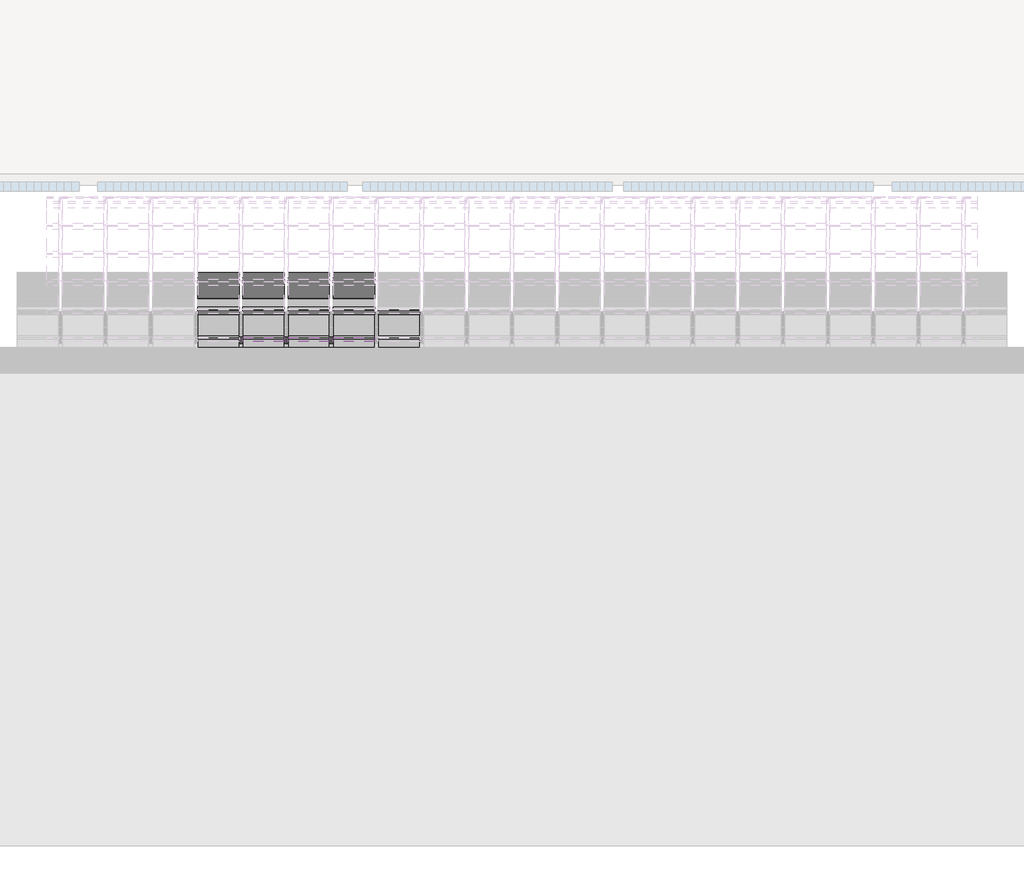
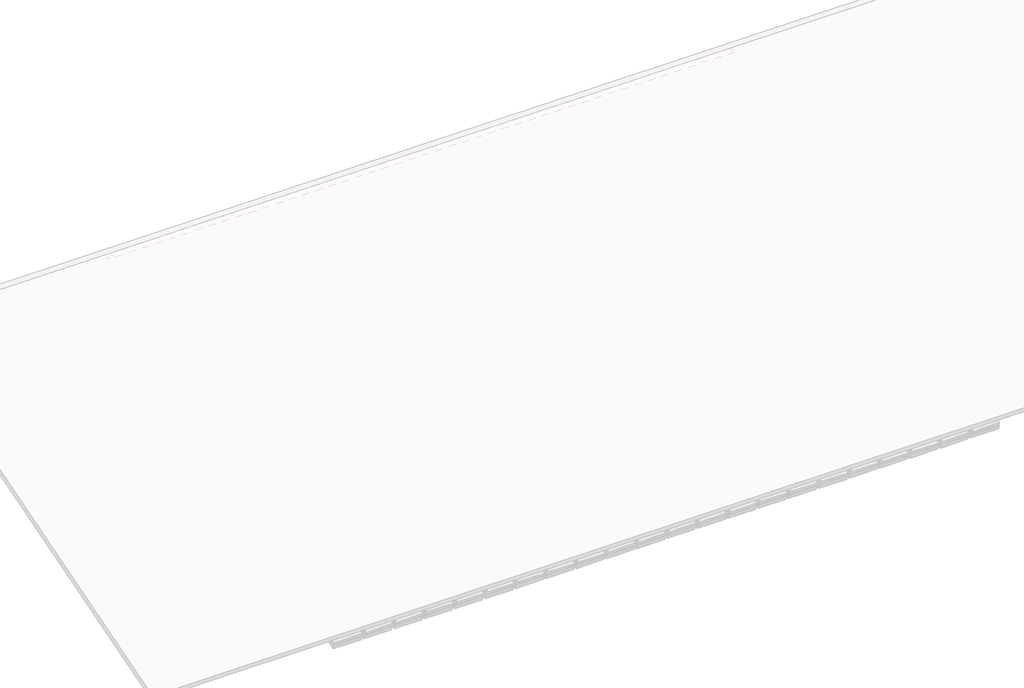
# One storey, part 19 of 57: 80 members, 44 plates.
"""IFC4 building model written with IfcOpenShell, lengths in millimetres."""

from ifc_helpers import new_model, si_unit, origin, place, context, project, spatial, transform, mapped, element, save
from components import rectangular_mullion_59984080, rectangular_mullion_2d2423ea, rectangular_mullion_caibro_e4384bba, rectangular_mullion_caibro_9bd7bc61, empty_system_panel_vazio_178faf58, empty_system_panel_vazio_2c78850d

model = new_model("IFC4")

# Units and contexts
model_context = context("Model", 3, world=origin())
ifc_project = project(units=[si_unit("LENGTHUNIT", "METRE", prefix="MILLI")], contexts=[model_context])

# Site, building, storey
site = spatial("IfcSite", under=ifc_project)
building = spatial("IfcBuilding", under=site)
storey = spatial("IfcBuildingStorey", under=building, Name="Nível 2", Elevation=4100.0)

# Members
placement = place(None, origin())
rectangular_mullion_shape = rectangular_mullion_59984080(model_context)
element("IfcMember", 1, ObjectType="Rectangular Mullion : Ripa", at=placement, inside=storey, context=model_context, shape_type="MappedRepresentation", body=[
    mapped(rectangular_mullion_shape, transform((14314.8305371, 11124.0013387, 4487.2495802), x_axis=(0.0, 0.9578262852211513, 0.2873478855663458), y_axis=(0.0, 0.2873478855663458, -0.9578262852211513), z_axis=(-1.0, 0.0, 0.0))),
])
element("IfcMember", 2, ObjectType="Rectangular Mullion : Ripa", at=placement, inside=storey, context=model_context, shape_type="MappedRepresentation", body=[
    mapped(rectangular_mullion_shape, transform((14911.8852935, 11124.0013387, 4487.2495802), x_axis=(0.0, 0.9578262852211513, 0.2873478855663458), y_axis=(0.0, 0.2873478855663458, -0.9578262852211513), z_axis=(-1.0, 0.0, 0.0))),
])
element("IfcMember", 3, ObjectType="Rectangular Mullion : Ripa", at=placement, inside=storey, context=model_context, shape_type="MappedRepresentation", body=[
    mapped(rectangular_mullion_shape, transform((15508.9400499, 11124.0013387, 4487.2495802), x_axis=(0.0, 0.9578262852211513, 0.2873478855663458), y_axis=(0.0, 0.2873478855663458, -0.9578262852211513), z_axis=(-1.0, 0.0, 0.0))),
])
element("IfcMember", 4, ObjectType="Rectangular Mullion : Ripa", at=placement, inside=storey, context=model_context, shape_type="MappedRepresentation", body=[
    mapped(rectangular_mullion_shape, transform((14314.8305371, 11494.1785974, 4598.3027578), x_axis=(0.0, 0.9578262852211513, 0.2873478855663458), y_axis=(0.0, 0.2873478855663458, -0.9578262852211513), z_axis=(-1.0, 0.0, 0.0))),
])
element("IfcMember", 5, ObjectType="Rectangular Mullion : Ripa", at=placement, inside=storey, context=model_context, shape_type="MappedRepresentation", body=[
    mapped(rectangular_mullion_shape, transform((14911.8852935, 11494.1785974, 4598.3027578), x_axis=(0.0, 0.9578262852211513, 0.2873478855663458), y_axis=(0.0, 0.2873478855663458, -0.9578262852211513), z_axis=(-1.0, 0.0, 0.0))),
])
element("IfcMember", 6, ObjectType="Rectangular Mullion : Ripa", at=placement, inside=storey, context=model_context, shape_type="MappedRepresentation", body=[
    mapped(rectangular_mullion_shape, transform((15508.9400499, 11494.1785974, 4598.3027578), x_axis=(0.0, 0.9578262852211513, 0.2873478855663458), y_axis=(0.0, 0.2873478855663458, -0.9578262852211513), z_axis=(-1.0, 0.0, 0.0))),
])
element("IfcMember", 7, ObjectType="Rectangular Mullion : Ripa", at=placement, inside=storey, context=model_context, shape_type="MappedRepresentation", body=[
    mapped(rectangular_mullion_shape, transform((14314.8305371, 11864.3558561, 4709.3559354), x_axis=(0.0, 0.9578262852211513, 0.2873478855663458), y_axis=(0.0, 0.2873478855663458, -0.9578262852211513), z_axis=(-1.0, 0.0, 0.0))),
])
element("IfcMember", 8, ObjectType="Rectangular Mullion : Ripa", at=placement, inside=storey, context=model_context, shape_type="MappedRepresentation", body=[
    mapped(rectangular_mullion_shape, transform((14911.8852935, 11864.3558561, 4709.3559354), x_axis=(0.0, 0.9578262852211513, 0.2873478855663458), y_axis=(0.0, 0.2873478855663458, -0.9578262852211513), z_axis=(-1.0, 0.0, 0.0))),
])
element("IfcMember", 9, ObjectType="Rectangular Mullion : Ripa", at=placement, inside=storey, context=model_context, shape_type="MappedRepresentation", body=[
    mapped(rectangular_mullion_shape, transform((15508.9400499, 11864.3558561, 4709.3559354), x_axis=(0.0, 0.9578262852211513, 0.2873478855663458), y_axis=(0.0, 0.2873478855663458, -0.9578262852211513), z_axis=(-1.0, 0.0, 0.0))),
])
element("IfcMember", 10, ObjectType="Rectangular Mullion : Ripa", at=placement, inside=storey, context=model_context, shape_type="MappedRepresentation", body=[
    mapped(rectangular_mullion_shape, transform((8344.2829728, 12234.5331147, 4820.409113), x_axis=(0.0, 0.9578262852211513, 0.2873478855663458), y_axis=(0.0, 0.2873478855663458, -0.9578262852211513), z_axis=(-1.0, 0.0, 0.0))),
])
element("IfcMember", 11, ObjectType="Rectangular Mullion : Ripa", at=placement, inside=storey, context=model_context, shape_type="MappedRepresentation", body=[
    mapped(rectangular_mullion_shape, transform((8941.3377293, 12234.5331147, 4820.409113), x_axis=(0.0, 0.9578262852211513, 0.2873478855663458), y_axis=(0.0, 0.2873478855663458, -0.9578262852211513), z_axis=(-1.0, 0.0, 0.0))),
])
element("IfcMember", 12, ObjectType="Rectangular Mullion : Ripa", at=placement, inside=storey, context=model_context, shape_type="MappedRepresentation", body=[
    mapped(rectangular_mullion_shape, transform((9538.3924857, 12234.5331147, 4820.409113), x_axis=(0.0, 0.9578262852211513, 0.2873478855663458), y_axis=(0.0, 0.2873478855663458, -0.9578262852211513), z_axis=(-1.0, 0.0, 0.0))),
])
element("IfcMember", 13, ObjectType="Rectangular Mullion : Ripa", at=placement, inside=storey, context=model_context, shape_type="MappedRepresentation", body=[
    mapped(rectangular_mullion_shape, transform((10135.4472421, 12234.5331147, 4820.409113), x_axis=(0.0, 0.9578262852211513, 0.2873478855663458), y_axis=(0.0, 0.2873478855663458, -0.9578262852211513), z_axis=(-1.0, 0.0, 0.0))),
])
element("IfcMember", 14, ObjectType="Rectangular Mullion : Ripa", at=placement, inside=storey, context=model_context, shape_type="MappedRepresentation", body=[
    mapped(rectangular_mullion_shape, transform((10732.5019985, 12234.5331147, 4820.409113), x_axis=(0.0, 0.9578262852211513, 0.2873478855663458), y_axis=(0.0, 0.2873478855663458, -0.9578262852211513), z_axis=(-1.0, 0.0, 0.0))),
])
element("IfcMember", 15, ObjectType="Rectangular Mullion : Ripa", at=placement, inside=storey, context=model_context, shape_type="MappedRepresentation", body=[
    mapped(rectangular_mullion_shape, transform((11329.556755, 12234.5331147, 4820.409113), x_axis=(0.0, 0.9578262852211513, 0.2873478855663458), y_axis=(0.0, 0.2873478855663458, -0.9578262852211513), z_axis=(-1.0, 0.0, 0.0))),
])
element("IfcMember", 16, ObjectType="Rectangular Mullion : Ripa", at=placement, inside=storey, context=model_context, shape_type="MappedRepresentation", body=[
    mapped(rectangular_mullion_shape, transform((11926.6115114, 12234.5331147, 4820.409113), x_axis=(0.0, 0.9578262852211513, 0.2873478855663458), y_axis=(0.0, 0.2873478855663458, -0.9578262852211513), z_axis=(-1.0, 0.0, 0.0))),
])
element("IfcMember", 17, ObjectType="Rectangular Mullion : Ripa", at=placement, inside=storey, context=model_context, shape_type="MappedRepresentation", body=[
    mapped(rectangular_mullion_shape, transform((8344.2829728, 12604.7103734, 4931.4622906), x_axis=(0.0, 0.9578262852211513, 0.2873478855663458), y_axis=(0.0, 0.2873478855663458, -0.9578262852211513), z_axis=(-1.0, 0.0, 0.0))),
])
element("IfcMember", 18, ObjectType="Rectangular Mullion : Ripa", at=placement, inside=storey, context=model_context, shape_type="MappedRepresentation", body=[
    mapped(rectangular_mullion_shape, transform((8941.3377293, 12604.7103734, 4931.4622906), x_axis=(0.0, 0.9578262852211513, 0.2873478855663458), y_axis=(0.0, 0.2873478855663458, -0.9578262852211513), z_axis=(-1.0, 0.0, 0.0))),
])
element("IfcMember", 19, ObjectType="Rectangular Mullion : Ripa", at=placement, inside=storey, context=model_context, shape_type="MappedRepresentation", body=[
    mapped(rectangular_mullion_shape, transform((9538.3924857, 12604.7103734, 4931.4622906), x_axis=(0.0, 0.9578262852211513, 0.2873478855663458), y_axis=(0.0, 0.2873478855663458, -0.9578262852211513), z_axis=(-1.0, 0.0, 0.0))),
])
element("IfcMember", 20, ObjectType="Rectangular Mullion : Ripa", at=placement, inside=storey, context=model_context, shape_type="MappedRepresentation", body=[
    mapped(rectangular_mullion_shape, transform((10135.4472421, 12604.7103734, 4931.4622906), x_axis=(0.0, 0.9578262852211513, 0.2873478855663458), y_axis=(0.0, 0.2873478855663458, -0.9578262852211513), z_axis=(-1.0, 0.0, 0.0))),
])
element("IfcMember", 21, ObjectType="Rectangular Mullion : Ripa", at=placement, inside=storey, context=model_context, shape_type="MappedRepresentation", body=[
    mapped(rectangular_mullion_shape, transform((10732.5019985, 12604.7103734, 4931.4622906), x_axis=(0.0, 0.9578262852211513, 0.2873478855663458), y_axis=(0.0, 0.2873478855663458, -0.9578262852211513), z_axis=(-1.0, 0.0, 0.0))),
])
element("IfcMember", 22, ObjectType="Rectangular Mullion : Ripa", at=placement, inside=storey, context=model_context, shape_type="MappedRepresentation", body=[
    mapped(rectangular_mullion_shape, transform((11329.556755, 12604.7103734, 4931.4622906), x_axis=(0.0, 0.9578262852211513, 0.2873478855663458), y_axis=(0.0, 0.2873478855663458, -0.9578262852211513), z_axis=(-1.0, 0.0, 0.0))),
])
element("IfcMember", 23, ObjectType="Rectangular Mullion : Ripa", at=placement, inside=storey, context=model_context, shape_type="MappedRepresentation", body=[
    mapped(rectangular_mullion_shape, transform((11926.6115114, 12604.7103734, 4931.4622906), x_axis=(0.0, 0.9578262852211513, 0.2873478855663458), y_axis=(0.0, 0.2873478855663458, -0.9578262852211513), z_axis=(-1.0, 0.0, 0.0))),
])
element("IfcMember", 24, ObjectType="Rectangular Mullion : Ripa", at=placement, inside=storey, context=model_context, shape_type="MappedRepresentation", body=[
    mapped(rectangular_mullion_shape, transform((8344.2829728, 12974.8876321, 5042.5154682), x_axis=(0.0, 0.9578262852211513, 0.2873478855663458), y_axis=(0.0, 0.2873478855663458, -0.9578262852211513), z_axis=(-1.0, 0.0, 0.0))),
])
element("IfcMember", 25, ObjectType="Rectangular Mullion : Ripa", at=placement, inside=storey, context=model_context, shape_type="MappedRepresentation", body=[
    mapped(rectangular_mullion_shape, transform((8941.3377293, 12974.8876321, 5042.5154682), x_axis=(0.0, 0.9578262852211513, 0.2873478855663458), y_axis=(0.0, 0.2873478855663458, -0.9578262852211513), z_axis=(-1.0, 0.0, 0.0))),
])
element("IfcMember", 26, ObjectType="Rectangular Mullion : Ripa", at=placement, inside=storey, context=model_context, shape_type="MappedRepresentation", body=[
    mapped(rectangular_mullion_shape, transform((9538.3924857, 12974.8876321, 5042.5154682), x_axis=(0.0, 0.9578262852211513, 0.2873478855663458), y_axis=(0.0, 0.2873478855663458, -0.9578262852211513), z_axis=(-1.0, 0.0, 0.0))),
])
element("IfcMember", 27, ObjectType="Rectangular Mullion : Ripa", at=placement, inside=storey, context=model_context, shape_type="MappedRepresentation", body=[
    mapped(rectangular_mullion_shape, transform((10135.4472421, 12974.8876321, 5042.5154682), x_axis=(0.0, 0.9578262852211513, 0.2873478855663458), y_axis=(0.0, 0.2873478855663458, -0.9578262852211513), z_axis=(-1.0, 0.0, 0.0))),
])
element("IfcMember", 28, ObjectType="Rectangular Mullion : Ripa", at=placement, inside=storey, context=model_context, shape_type="MappedRepresentation", body=[
    mapped(rectangular_mullion_shape, transform((10732.5019985, 12974.8876321, 5042.5154682), x_axis=(0.0, 0.9578262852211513, 0.2873478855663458), y_axis=(0.0, 0.2873478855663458, -0.9578262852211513), z_axis=(-1.0, 0.0, 0.0))),
])
element("IfcMember", 29, ObjectType="Rectangular Mullion : Ripa", at=placement, inside=storey, context=model_context, shape_type="MappedRepresentation", body=[
    mapped(rectangular_mullion_shape, transform((11329.556755, 12974.8876321, 5042.5154682), x_axis=(0.0, 0.9578262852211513, 0.2873478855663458), y_axis=(0.0, 0.2873478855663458, -0.9578262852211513), z_axis=(-1.0, 0.0, 0.0))),
])
element("IfcMember", 30, ObjectType="Rectangular Mullion : Ripa", at=placement, inside=storey, context=model_context, shape_type="MappedRepresentation", body=[
    mapped(rectangular_mullion_shape, transform((11926.6115114, 12974.8876321, 5042.5154682), x_axis=(0.0, 0.9578262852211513, 0.2873478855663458), y_axis=(0.0, 0.2873478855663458, -0.9578262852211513), z_axis=(-1.0, 0.0, 0.0))),
])
element("IfcMember", 31, ObjectType="Rectangular Mullion : Ripa", at=placement, inside=storey, context=model_context, shape_type="MappedRepresentation", body=[
    mapped(rectangular_mullion_shape, transform((8344.2829728, 13345.0648907, 5153.5686458), x_axis=(0.0, 0.9578262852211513, 0.2873478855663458), y_axis=(0.0, 0.2873478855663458, -0.9578262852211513), z_axis=(-1.0, 0.0, 0.0))),
])
element("IfcMember", 32, ObjectType="Rectangular Mullion : Ripa", at=placement, inside=storey, context=model_context, shape_type="MappedRepresentation", body=[
    mapped(rectangular_mullion_shape, transform((8941.3377293, 13345.0648907, 5153.5686458), x_axis=(0.0, 0.9578262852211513, 0.2873478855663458), y_axis=(0.0, 0.2873478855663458, -0.9578262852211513), z_axis=(-1.0, 0.0, 0.0))),
])
element("IfcMember", 33, ObjectType="Rectangular Mullion : Ripa", at=placement, inside=storey, context=model_context, shape_type="MappedRepresentation", body=[
    mapped(rectangular_mullion_shape, transform((9538.3924857, 13345.0648907, 5153.5686458), x_axis=(0.0, 0.9578262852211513, 0.2873478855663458), y_axis=(0.0, 0.2873478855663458, -0.9578262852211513), z_axis=(-1.0, 0.0, 0.0))),
])
element("IfcMember", 34, ObjectType="Rectangular Mullion : Ripa", at=placement, inside=storey, context=model_context, shape_type="MappedRepresentation", body=[
    mapped(rectangular_mullion_shape, transform((8344.2829728, 13715.2421494, 5264.6218234), x_axis=(0.0, 0.9578262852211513, 0.2873478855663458), y_axis=(0.0, 0.2873478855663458, -0.9578262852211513), z_axis=(-1.0, 0.0, 0.0))),
])
element("IfcMember", 35, ObjectType="Rectangular Mullion : Ripa", at=placement, inside=storey, context=model_context, shape_type="MappedRepresentation", body=[
    mapped(rectangular_mullion_shape, transform((8941.3377293, 13715.2421494, 5264.6218234), x_axis=(0.0, 0.9578262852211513, 0.2873478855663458), y_axis=(0.0, 0.2873478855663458, -0.9578262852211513), z_axis=(-1.0, 0.0, 0.0))),
])
element("IfcMember", 36, ObjectType="Rectangular Mullion : Ripa", at=placement, inside=storey, context=model_context, shape_type="MappedRepresentation", body=[
    mapped(rectangular_mullion_shape, transform((9538.3924857, 13715.2421494, 5264.6218234), x_axis=(0.0, 0.9578262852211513, 0.2873478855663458), y_axis=(0.0, 0.2873478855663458, -0.9578262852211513), z_axis=(-1.0, 0.0, 0.0))),
])
rectangular_mullion_2_shape = rectangular_mullion_2d2423ea(model_context)
element("IfcMember", 37, ObjectType="Rectangular Mullion : Terça", at=placement, inside=storey, context=model_context, shape_type="MappedRepresentation", body=[
    mapped(rectangular_mullion_2_shape, transform((14314.8305371, 11285.144311, 4472.9506328), x_axis=(0.0, 0.9578262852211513, 0.2873478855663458), y_axis=(0.0, 0.2873478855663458, -0.9578262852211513), z_axis=(-1.0, 0.0, 0.0))),
])
element("IfcMember", 38, ObjectType="Rectangular Mullion : Terça", at=placement, inside=storey, context=model_context, shape_type="MappedRepresentation", body=[
    mapped(rectangular_mullion_2_shape, transform((14911.8852935, 11285.144311, 4472.9506328), x_axis=(0.0, 0.9578262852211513, 0.2873478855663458), y_axis=(0.0, 0.2873478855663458, -0.9578262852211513), z_axis=(-1.0, 0.0, 0.0))),
])
element("IfcMember", 39, ObjectType="Rectangular Mullion : Terça", at=placement, inside=storey, context=model_context, shape_type="MappedRepresentation", body=[
    mapped(rectangular_mullion_2_shape, transform((15508.9400499, 11285.144311, 4472.9506328), x_axis=(0.0, 0.9578262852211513, 0.2873478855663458), y_axis=(0.0, 0.2873478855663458, -0.9578262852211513), z_axis=(-1.0, 0.0, 0.0))),
])
element("IfcMember", 40, ObjectType="Rectangular Mullion : Terça", at=placement, inside=storey, context=model_context, shape_type="MappedRepresentation", body=[
    mapped(rectangular_mullion_2_shape, transform((8344.2829728, 13411.2689826, 5110.7880343), x_axis=(0.0, 0.9578262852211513, 0.2873478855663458), y_axis=(0.0, 0.2873478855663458, -0.9578262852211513), z_axis=(-1.0, 0.0, 0.0))),
])
element("IfcMember", 41, ObjectType="Rectangular Mullion : Terça", at=placement, inside=storey, context=model_context, shape_type="MappedRepresentation", body=[
    mapped(rectangular_mullion_2_shape, transform((8941.3377293, 13411.2689826, 5110.7880343), x_axis=(0.0, 0.9578262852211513, 0.2873478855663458), y_axis=(0.0, 0.2873478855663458, -0.9578262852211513), z_axis=(-1.0, 0.0, 0.0))),
])
element("IfcMember", 42, ObjectType="Rectangular Mullion : Terça", at=placement, inside=storey, context=model_context, shape_type="MappedRepresentation", body=[
    mapped(rectangular_mullion_2_shape, transform((9538.3924857, 13411.2689826, 5110.7880343), x_axis=(0.0, 0.9578262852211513, 0.2873478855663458), y_axis=(0.0, 0.2873478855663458, -0.9578262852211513), z_axis=(-1.0, 0.0, 0.0))),
])
rectangular_mullion_caibro_shape = rectangular_mullion_caibro_e4384bba(model_context)
element("IfcMember", 43, ObjectType="Rectangular Mullion : Caibro", at=placement, inside=storey, context=model_context, shape_type="MappedRepresentation", body=[
    mapped(rectangular_mullion_caibro_shape, transform((8319.2829728, 12234.5331147, 4820.409113), x_axis=(1.0, 0.0, 0.0), y_axis=(0.0, 0.2873478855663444, -0.9578262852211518), z_axis=(0.0, 0.9578262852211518, 0.2873478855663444))),
])
element("IfcMember", 44, ObjectType="Rectangular Mullion : Caibro", at=placement, inside=storey, context=model_context, shape_type="MappedRepresentation", body=[
    mapped(rectangular_mullion_caibro_shape, transform((8319.2829728, 12604.7103734, 4931.4622906), x_axis=(1.0, 0.0, 0.0), y_axis=(0.0, 0.28734788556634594, -0.9578262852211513), z_axis=(0.0, 0.9578262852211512, 0.2873478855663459))),
])
element("IfcMember", 45, ObjectType="Rectangular Mullion : Caibro", at=placement, inside=storey, context=model_context, shape_type="MappedRepresentation", body=[
    mapped(rectangular_mullion_caibro_shape, transform((8319.2829728, 12974.8876321, 5042.5154682), x_axis=(1.0, 0.0, 0.0), y_axis=(0.0, 0.28734788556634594, -0.9578262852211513), z_axis=(0.0, 0.9578262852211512, 0.2873478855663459))),
])
element("IfcMember", 46, ObjectType="Rectangular Mullion : Caibro", at=placement, inside=storey, context=model_context, shape_type="MappedRepresentation", body=[
    mapped(rectangular_mullion_caibro_shape, transform((8319.2829728, 13345.0648907, 5153.5686458), x_axis=(1.0, 0.0, 0.0), y_axis=(0.0, 0.28734788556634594, -0.9578262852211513), z_axis=(0.0, 0.9578262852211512, 0.2873478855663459))),
])
element("IfcMember", 47, ObjectType="Rectangular Mullion : Caibro", at=placement, inside=storey, context=model_context, shape_type="MappedRepresentation", body=[
    mapped(rectangular_mullion_caibro_shape, transform((8319.2829728, 13715.2421494, 5264.6218234), x_axis=(1.0, 0.0, 0.0), y_axis=(0.0, 0.28734788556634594, -0.9578262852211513), z_axis=(0.0, 0.9578262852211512, 0.2873478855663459))),
])
element("IfcMember", 48, ObjectType="Rectangular Mullion : Caibro", at=placement, inside=storey, context=model_context, shape_type="MappedRepresentation", body=[
    mapped(rectangular_mullion_caibro_shape, transform((8916.3377293, 12234.5331147, 4820.409113), x_axis=(1.0, 0.0, 0.0), y_axis=(0.0, 0.2873478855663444, -0.9578262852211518), z_axis=(0.0, 0.9578262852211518, 0.2873478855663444))),
])
element("IfcMember", 49, ObjectType="Rectangular Mullion : Caibro", at=placement, inside=storey, context=model_context, shape_type="MappedRepresentation", body=[
    mapped(rectangular_mullion_caibro_shape, transform((8916.3377293, 12604.7103734, 4931.4622906), x_axis=(1.0, 0.0, 0.0), y_axis=(0.0, 0.28734788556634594, -0.9578262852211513), z_axis=(0.0, 0.9578262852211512, 0.2873478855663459))),
])
element("IfcMember", 50, ObjectType="Rectangular Mullion : Caibro", at=placement, inside=storey, context=model_context, shape_type="MappedRepresentation", body=[
    mapped(rectangular_mullion_caibro_shape, transform((8916.3377293, 12974.8876321, 5042.5154682), x_axis=(1.0, 0.0, 0.0), y_axis=(0.0, 0.28734788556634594, -0.9578262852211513), z_axis=(0.0, 0.9578262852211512, 0.2873478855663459))),
])
element("IfcMember", 51, ObjectType="Rectangular Mullion : Caibro", at=placement, inside=storey, context=model_context, shape_type="MappedRepresentation", body=[
    mapped(rectangular_mullion_caibro_shape, transform((8916.3377293, 13345.0648907, 5153.5686458), x_axis=(1.0, 0.0, 0.0), y_axis=(0.0, 0.28734788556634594, -0.9578262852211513), z_axis=(0.0, 0.9578262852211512, 0.2873478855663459))),
])
element("IfcMember", 52, ObjectType="Rectangular Mullion : Caibro", at=placement, inside=storey, context=model_context, shape_type="MappedRepresentation", body=[
    mapped(rectangular_mullion_caibro_shape, transform((8916.3377293, 13715.2421494, 5264.6218234), x_axis=(1.0, 0.0, 0.0), y_axis=(0.0, 0.28734788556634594, -0.9578262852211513), z_axis=(0.0, 0.9578262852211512, 0.2873478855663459))),
])
element("IfcMember", 53, ObjectType="Rectangular Mullion : Caibro", at=placement, inside=storey, context=model_context, shape_type="MappedRepresentation", body=[
    mapped(rectangular_mullion_caibro_shape, transform((9513.3924857, 12234.5331147, 4820.409113), x_axis=(1.0, 0.0, 0.0), y_axis=(0.0, 0.2873478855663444, -0.9578262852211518), z_axis=(0.0, 0.9578262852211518, 0.2873478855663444))),
])
element("IfcMember", 54, ObjectType="Rectangular Mullion : Caibro", at=placement, inside=storey, context=model_context, shape_type="MappedRepresentation", body=[
    mapped(rectangular_mullion_caibro_shape, transform((9513.3924857, 12604.7103734, 4931.4622906), x_axis=(1.0, 0.0, 0.0), y_axis=(0.0, 0.2873478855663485, -0.9578262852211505), z_axis=(0.0, 0.9578262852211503, 0.28734788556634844))),
])
element("IfcMember", 55, ObjectType="Rectangular Mullion : Caibro", at=placement, inside=storey, context=model_context, shape_type="MappedRepresentation", body=[
    mapped(rectangular_mullion_caibro_shape, transform((9513.3924857, 12974.8876321, 5042.5154682), x_axis=(1.0, 0.0, 0.0), y_axis=(0.0, 0.2873478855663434, -0.957826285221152), z_axis=(0.0, 0.957826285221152, 0.2873478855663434))),
])
element("IfcMember", 56, ObjectType="Rectangular Mullion : Caibro", at=placement, inside=storey, context=model_context, shape_type="MappedRepresentation", body=[
    mapped(rectangular_mullion_caibro_shape, transform((9513.3924857, 13345.0648907, 5153.5686458), x_axis=(1.0, 0.0, 0.0), y_axis=(0.0, 0.28734788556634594, -0.9578262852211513), z_axis=(0.0, 0.9578262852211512, 0.2873478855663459))),
])
element("IfcMember", 57, ObjectType="Rectangular Mullion : Caibro", at=placement, inside=storey, context=model_context, shape_type="MappedRepresentation", body=[
    mapped(rectangular_mullion_caibro_shape, transform((9513.3924857, 13715.2421494, 5264.6218234), x_axis=(1.0, 0.0, 0.0), y_axis=(0.0, 0.28734788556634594, -0.9578262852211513), z_axis=(0.0, 0.9578262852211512, 0.2873478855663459))),
])
element("IfcMember", 58, ObjectType="Rectangular Mullion : Caibro", at=placement, inside=storey, context=model_context, shape_type="MappedRepresentation", body=[
    mapped(rectangular_mullion_caibro_shape, transform((10110.4472421, 12234.5331147, 4820.409113), x_axis=(1.0, 0.0, 0.0), y_axis=(0.0, 0.2873478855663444, -0.9578262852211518), z_axis=(0.0, 0.9578262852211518, 0.2873478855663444))),
])
element("IfcMember", 59, ObjectType="Rectangular Mullion : Caibro", at=placement, inside=storey, context=model_context, shape_type="MappedRepresentation", body=[
    mapped(rectangular_mullion_caibro_shape, transform((10110.4472421, 12604.7103734, 4931.4622906), x_axis=(1.0, 0.0, 0.0), y_axis=(0.0, 0.2873478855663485, -0.9578262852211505), z_axis=(0.0, 0.9578262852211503, 0.28734788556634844))),
])
element("IfcMember", 60, ObjectType="Rectangular Mullion : Caibro", at=placement, inside=storey, context=model_context, shape_type="MappedRepresentation", body=[
    mapped(rectangular_mullion_caibro_shape, transform((10110.4472421, 12974.8876321, 5042.5154682), x_axis=(1.0, 0.0, 0.0), y_axis=(0.0, 0.2873478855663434, -0.957826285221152), z_axis=(0.0, 0.957826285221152, 0.2873478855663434))),
])
element("IfcMember", 61, ObjectType="Rectangular Mullion : Caibro", at=placement, inside=storey, context=model_context, shape_type="MappedRepresentation", body=[
    mapped(rectangular_mullion_caibro_shape, transform((10707.5019985, 12234.5331147, 4820.409113), x_axis=(1.0, 0.0, 0.0), y_axis=(0.0, 0.2873478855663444, -0.9578262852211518), z_axis=(0.0, 0.9578262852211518, 0.2873478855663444))),
])
element("IfcMember", 62, ObjectType="Rectangular Mullion : Caibro", at=placement, inside=storey, context=model_context, shape_type="MappedRepresentation", body=[
    mapped(rectangular_mullion_caibro_shape, transform((10707.5019985, 12604.7103734, 4931.4622906), x_axis=(1.0, 0.0, 0.0), y_axis=(0.0, 0.2873478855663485, -0.9578262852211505), z_axis=(0.0, 0.9578262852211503, 0.28734788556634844))),
])
element("IfcMember", 63, ObjectType="Rectangular Mullion : Caibro", at=placement, inside=storey, context=model_context, shape_type="MappedRepresentation", body=[
    mapped(rectangular_mullion_caibro_shape, transform((10707.5019985, 12974.8876321, 5042.5154682), x_axis=(1.0, 0.0, 0.0), y_axis=(0.0, 0.2873478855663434, -0.957826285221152), z_axis=(0.0, 0.957826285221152, 0.2873478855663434))),
])
element("IfcMember", 64, ObjectType="Rectangular Mullion : Caibro", at=placement, inside=storey, context=model_context, shape_type="MappedRepresentation", body=[
    mapped(rectangular_mullion_caibro_shape, transform((11304.556755, 12234.5331147, 4820.409113), x_axis=(1.0, 0.0, 0.0), y_axis=(0.0, 0.2873478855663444, -0.9578262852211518), z_axis=(0.0, 0.9578262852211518, 0.2873478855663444))),
])
element("IfcMember", 65, ObjectType="Rectangular Mullion : Caibro", at=placement, inside=storey, context=model_context, shape_type="MappedRepresentation", body=[
    mapped(rectangular_mullion_caibro_shape, transform((11304.556755, 12604.7103734, 4931.4622906), x_axis=(1.0, 0.0, 0.0), y_axis=(0.0, 0.2873478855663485, -0.9578262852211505), z_axis=(0.0, 0.9578262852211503, 0.28734788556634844))),
])
element("IfcMember", 66, ObjectType="Rectangular Mullion : Caibro", at=placement, inside=storey, context=model_context, shape_type="MappedRepresentation", body=[
    mapped(rectangular_mullion_caibro_shape, transform((11304.556755, 12974.8876321, 5042.5154682), x_axis=(1.0, 0.0, 0.0), y_axis=(0.0, 0.2873478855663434, -0.957826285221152), z_axis=(0.0, 0.957826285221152, 0.2873478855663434))),
])
element("IfcMember", 67, ObjectType="Rectangular Mullion : Caibro", at=placement, inside=storey, context=model_context, shape_type="MappedRepresentation", body=[
    mapped(rectangular_mullion_caibro_shape, transform((11901.6115114, 12234.5331147, 4820.409113), x_axis=(1.0, 0.0, 0.0), y_axis=(0.0, 0.2873478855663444, -0.9578262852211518), z_axis=(0.0, 0.9578262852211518, 0.2873478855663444))),
])
element("IfcMember", 68, ObjectType="Rectangular Mullion : Caibro", at=placement, inside=storey, context=model_context, shape_type="MappedRepresentation", body=[
    mapped(rectangular_mullion_caibro_shape, transform((11901.6115114, 12604.7103734, 4931.4622906), x_axis=(1.0, 0.0, 0.0), y_axis=(0.0, 0.2873478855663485, -0.9578262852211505), z_axis=(0.0, 0.9578262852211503, 0.28734788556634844))),
])
element("IfcMember", 69, ObjectType="Rectangular Mullion : Caibro", at=placement, inside=storey, context=model_context, shape_type="MappedRepresentation", body=[
    mapped(rectangular_mullion_caibro_shape, transform((11901.6115114, 12974.8876321, 5042.5154682), x_axis=(1.0, 0.0, 0.0), y_axis=(0.0, 0.2873478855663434, -0.957826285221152), z_axis=(0.0, 0.957826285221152, 0.2873478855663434))),
])
element("IfcMember", 70, ObjectType="Rectangular Mullion : Caibro", at=placement, inside=storey, context=model_context, shape_type="MappedRepresentation", body=[
    mapped(rectangular_mullion_caibro_shape, transform((14886.8852935, 11494.1785974, 4598.3027578), x_axis=(1.0, 0.0, 0.0), y_axis=(0.0, 0.28734788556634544, -0.9578262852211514), z_axis=(0.0, 0.9578262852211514, 0.28734788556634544))),
])
element("IfcMember", 71, ObjectType="Rectangular Mullion : Caibro", at=placement, inside=storey, context=model_context, shape_type="MappedRepresentation", body=[
    mapped(rectangular_mullion_caibro_shape, transform((14886.8852935, 11864.3558561, 4709.3559354), x_axis=(1.0, 0.0, 0.0), y_axis=(0.0, 0.28734788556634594, -0.9578262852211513), z_axis=(0.0, 0.9578262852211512, 0.2873478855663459))),
])
element("IfcMember", 72, ObjectType="Rectangular Mullion : Caibro", at=placement, inside=storey, context=model_context, shape_type="MappedRepresentation", body=[
    mapped(rectangular_mullion_caibro_shape, transform((15483.9400499, 11124.0013387, 4487.2495802), x_axis=(1.0, 0.0, 0.0), y_axis=(0.0, 0.2873478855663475, -0.9578262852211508), z_axis=(0.0, 0.9578262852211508, 0.2873478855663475))),
])
element("IfcMember", 73, ObjectType="Rectangular Mullion : Caibro", at=placement, inside=storey, context=model_context, shape_type="MappedRepresentation", body=[
    mapped(rectangular_mullion_caibro_shape, transform((15483.9400499, 11494.1785974, 4598.3027578), x_axis=(1.0, 0.0, 0.0), y_axis=(0.0, 0.28734788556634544, -0.9578262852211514), z_axis=(0.0, 0.9578262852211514, 0.28734788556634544))),
])
element("IfcMember", 74, ObjectType="Rectangular Mullion : Caibro", at=placement, inside=storey, context=model_context, shape_type="MappedRepresentation", body=[
    mapped(rectangular_mullion_caibro_shape, transform((15483.9400499, 11864.3558561, 4709.3559354), x_axis=(1.0, 0.0, 0.0), y_axis=(0.0, 0.28734788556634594, -0.9578262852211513), z_axis=(0.0, 0.9578262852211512, 0.2873478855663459))),
])
rectangular_mullion_caibro_2_shape = rectangular_mullion_caibro_9bd7bc61(model_context)
element("IfcMember", 75, ObjectType="Rectangular Mullion : Caibro", at=placement, inside=storey, context=model_context, shape_type="MappedRepresentation", body=[
    mapped(rectangular_mullion_caibro_2_shape, transform((8319.2829728, 13411.2689826, 5110.7880343), x_axis=(1.0, 0.0, 0.0), y_axis=(0.0, 0.2873478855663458, -0.9578262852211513), z_axis=(0.0, 0.9578262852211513, 0.2873478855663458))),
])
element("IfcMember", 76, ObjectType="Rectangular Mullion : Caibro", at=placement, inside=storey, context=model_context, shape_type="MappedRepresentation", body=[
    mapped(rectangular_mullion_caibro_2_shape, transform((8916.3377293, 13411.2689826, 5110.7880343), x_axis=(1.0, 0.0, 0.0), y_axis=(0.0, 0.2873478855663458, -0.9578262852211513), z_axis=(0.0, 0.9578262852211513, 0.2873478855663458))),
])
element("IfcMember", 77, ObjectType="Rectangular Mullion : Caibro", at=placement, inside=storey, context=model_context, shape_type="MappedRepresentation", body=[
    mapped(rectangular_mullion_caibro_2_shape, transform((9513.3924857, 13411.2689826, 5110.7880343), x_axis=(1.0, 0.0, 0.0), y_axis=(0.0, 0.2873478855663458, -0.9578262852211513), z_axis=(0.0, 0.9578262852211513, 0.2873478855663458))),
])
element("IfcMember", 78, ObjectType="Rectangular Mullion : Caibro", at=placement, inside=storey, context=model_context, shape_type="MappedRepresentation", body=[
    mapped(rectangular_mullion_caibro_2_shape, transform((14289.8305371, 11285.144311, 4472.9506328), x_axis=(1.0, 0.0, 0.0), y_axis=(0.0, 0.28734788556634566, -0.9578262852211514), z_axis=(0.0, 0.9578262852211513, 0.2873478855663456))),
])
element("IfcMember", 79, ObjectType="Rectangular Mullion : Caibro", at=placement, inside=storey, context=model_context, shape_type="MappedRepresentation", body=[
    mapped(rectangular_mullion_caibro_2_shape, transform((14886.8852935, 11285.144311, 4472.9506328), x_axis=(1.0, 0.0, 0.0), y_axis=(0.0, 0.28734788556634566, -0.9578262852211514), z_axis=(0.0, 0.9578262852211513, 0.2873478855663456))),
])
element("IfcMember", 80, ObjectType="Rectangular Mullion : Caibro", at=placement, inside=storey, context=model_context, shape_type="MappedRepresentation", body=[
    mapped(rectangular_mullion_caibro_2_shape, transform((15483.9400499, 11285.144311, 4472.9506328), x_axis=(1.0, 0.0, 0.0), y_axis=(0.0, 0.28734788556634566, -0.9578262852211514), z_axis=(0.0, 0.9578262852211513, 0.2873478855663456))),
])

# Plates
empty_system_panel_vazio_shape = empty_system_panel_vazio_178faf58(model_context)
element("IfcPlate", 81, ObjectType="Empty System Panel : Vazio", at=placement, inside=storey, context=model_context, shape_type="MappedRepresentation", body=[
    mapped(empty_system_panel_vazio_shape, transform((15185.4126717, 11124.0013387, 4487.2495802), x_axis=(1.0, 0.0, 0.0), y_axis=(0.0, 0.2873478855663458, -0.9578262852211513), z_axis=(0.0, 0.9578262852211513, 0.2873478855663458))),
])
element("IfcPlate", 82, ObjectType="Empty System Panel : Vazio", at=placement, inside=storey, context=model_context, shape_type="MappedRepresentation", body=[
    mapped(empty_system_panel_vazio_shape, transform((15782.4674281, 11124.0013387, 4487.2495802), x_axis=(1.0, 0.0, 0.0), y_axis=(0.0, 0.2873478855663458, -0.9578262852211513), z_axis=(0.0, 0.9578262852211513, 0.2873478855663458))),
])
element("IfcPlate", 83, ObjectType="Empty System Panel : Vazio", at=placement, inside=storey, context=model_context, shape_type="MappedRepresentation", body=[
    mapped(empty_system_panel_vazio_shape, transform((15185.4126717, 11494.1785974, 4598.3027578), x_axis=(1.0, 0.0, 0.0), y_axis=(0.0, 0.2873478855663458, -0.9578262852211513), z_axis=(0.0, 0.9578262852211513, 0.2873478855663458))),
])
element("IfcPlate", 84, ObjectType="Empty System Panel : Vazio", at=placement, inside=storey, context=model_context, shape_type="MappedRepresentation", body=[
    mapped(empty_system_panel_vazio_shape, transform((15782.4674281, 11494.1785974, 4598.3027578), x_axis=(1.0, 0.0, 0.0), y_axis=(0.0, 0.2873478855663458, -0.9578262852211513), z_axis=(0.0, 0.9578262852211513, 0.2873478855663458))),
])
element("IfcPlate", 85, ObjectType="Empty System Panel : Vazio", at=placement, inside=storey, context=model_context, shape_type="MappedRepresentation", body=[
    mapped(empty_system_panel_vazio_shape, transform((15185.4126717, 11864.3558561, 4709.3559354), x_axis=(1.0, 0.0, 0.0), y_axis=(0.0, 0.2873478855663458, -0.9578262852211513), z_axis=(0.0, 0.9578262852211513, 0.2873478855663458))),
])
element("IfcPlate", 86, ObjectType="Empty System Panel : Vazio", at=placement, inside=storey, context=model_context, shape_type="MappedRepresentation", body=[
    mapped(empty_system_panel_vazio_shape, transform((15782.4674281, 11864.3558561, 4709.3559354), x_axis=(1.0, 0.0, 0.0), y_axis=(0.0, 0.2873478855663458, -0.9578262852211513), z_axis=(0.0, 0.9578262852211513, 0.2873478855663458))),
])
element("IfcPlate", 87, ObjectType="Empty System Panel : Vazio", at=placement, inside=storey, context=model_context, shape_type="MappedRepresentation", body=[
    mapped(empty_system_panel_vazio_shape, transform((8020.7555946, 12234.5331147, 4820.409113), x_axis=(1.0, 0.0, 0.0), y_axis=(0.0, 0.2873478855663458, -0.9578262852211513), z_axis=(0.0, 0.9578262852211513, 0.2873478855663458))),
])
element("IfcPlate", 88, ObjectType="Empty System Panel : Vazio", at=placement, inside=storey, context=model_context, shape_type="MappedRepresentation", body=[
    mapped(empty_system_panel_vazio_shape, transform((8617.810351, 12234.5331147, 4820.409113), x_axis=(1.0, 0.0, 0.0), y_axis=(0.0, 0.2873478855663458, -0.9578262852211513), z_axis=(0.0, 0.9578262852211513, 0.2873478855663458))),
])
element("IfcPlate", 89, ObjectType="Empty System Panel : Vazio", at=placement, inside=storey, context=model_context, shape_type="MappedRepresentation", body=[
    mapped(empty_system_panel_vazio_shape, transform((9214.8651075, 12234.5331147, 4820.409113), x_axis=(1.0, 0.0, 0.0), y_axis=(0.0, 0.2873478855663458, -0.9578262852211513), z_axis=(0.0, 0.9578262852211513, 0.2873478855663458))),
])
element("IfcPlate", 90, ObjectType="Empty System Panel : Vazio", at=placement, inside=storey, context=model_context, shape_type="MappedRepresentation", body=[
    mapped(empty_system_panel_vazio_shape, transform((9811.9198639, 12234.5331147, 4820.409113), x_axis=(1.0, 0.0, 0.0), y_axis=(0.0, 0.2873478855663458, -0.9578262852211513), z_axis=(0.0, 0.9578262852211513, 0.2873478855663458))),
])
element("IfcPlate", 91, ObjectType="Empty System Panel : Vazio", at=placement, inside=storey, context=model_context, shape_type="MappedRepresentation", body=[
    mapped(empty_system_panel_vazio_shape, transform((10408.9746203, 12234.5331147, 4820.409113), x_axis=(1.0, 0.0, 0.0), y_axis=(0.0, 0.2873478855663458, -0.9578262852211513), z_axis=(0.0, 0.9578262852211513, 0.2873478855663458))),
])
element("IfcPlate", 92, ObjectType="Empty System Panel : Vazio", at=placement, inside=storey, context=model_context, shape_type="MappedRepresentation", body=[
    mapped(empty_system_panel_vazio_shape, transform((11006.0293767, 12234.5331147, 4820.409113), x_axis=(1.0, 0.0, 0.0), y_axis=(0.0, 0.2873478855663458, -0.9578262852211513), z_axis=(0.0, 0.9578262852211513, 0.2873478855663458))),
])
element("IfcPlate", 93, ObjectType="Empty System Panel : Vazio", at=placement, inside=storey, context=model_context, shape_type="MappedRepresentation", body=[
    mapped(empty_system_panel_vazio_shape, transform((11603.0841332, 12234.5331147, 4820.409113), x_axis=(1.0, 0.0, 0.0), y_axis=(0.0, 0.2873478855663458, -0.9578262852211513), z_axis=(0.0, 0.9578262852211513, 0.2873478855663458))),
])
element("IfcPlate", 94, ObjectType="Empty System Panel : Vazio", at=placement, inside=storey, context=model_context, shape_type="MappedRepresentation", body=[
    mapped(empty_system_panel_vazio_shape, transform((8020.7555946, 12604.7103734, 4931.4622906), x_axis=(1.0, 0.0, 0.0), y_axis=(0.0, 0.2873478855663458, -0.9578262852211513), z_axis=(0.0, 0.9578262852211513, 0.2873478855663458))),
])
element("IfcPlate", 95, ObjectType="Empty System Panel : Vazio", at=placement, inside=storey, context=model_context, shape_type="MappedRepresentation", body=[
    mapped(empty_system_panel_vazio_shape, transform((8617.810351, 12604.7103734, 4931.4622906), x_axis=(1.0, 0.0, 0.0), y_axis=(0.0, 0.2873478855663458, -0.9578262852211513), z_axis=(0.0, 0.9578262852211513, 0.2873478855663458))),
])
element("IfcPlate", 96, ObjectType="Empty System Panel : Vazio", at=placement, inside=storey, context=model_context, shape_type="MappedRepresentation", body=[
    mapped(empty_system_panel_vazio_shape, transform((9214.8651075, 12604.7103734, 4931.4622906), x_axis=(1.0, 0.0, 0.0), y_axis=(0.0, 0.2873478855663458, -0.9578262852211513), z_axis=(0.0, 0.9578262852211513, 0.2873478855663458))),
])
element("IfcPlate", 97, ObjectType="Empty System Panel : Vazio", at=placement, inside=storey, context=model_context, shape_type="MappedRepresentation", body=[
    mapped(empty_system_panel_vazio_shape, transform((9811.9198639, 12604.7103734, 4931.4622906), x_axis=(1.0, 0.0, 0.0), y_axis=(0.0, 0.2873478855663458, -0.9578262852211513), z_axis=(0.0, 0.9578262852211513, 0.2873478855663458))),
])
element("IfcPlate", 98, ObjectType="Empty System Panel : Vazio", at=placement, inside=storey, context=model_context, shape_type="MappedRepresentation", body=[
    mapped(empty_system_panel_vazio_shape, transform((10408.9746203, 12604.7103734, 4931.4622906), x_axis=(1.0, 0.0, 0.0), y_axis=(0.0, 0.2873478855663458, -0.9578262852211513), z_axis=(0.0, 0.9578262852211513, 0.2873478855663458))),
])
element("IfcPlate", 99, ObjectType="Empty System Panel : Vazio", at=placement, inside=storey, context=model_context, shape_type="MappedRepresentation", body=[
    mapped(empty_system_panel_vazio_shape, transform((11006.0293767, 12604.7103734, 4931.4622906), x_axis=(1.0, 0.0, 0.0), y_axis=(0.0, 0.2873478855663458, -0.9578262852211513), z_axis=(0.0, 0.9578262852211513, 0.2873478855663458))),
])
element("IfcPlate", 100, ObjectType="Empty System Panel : Vazio", at=placement, inside=storey, context=model_context, shape_type="MappedRepresentation", body=[
    mapped(empty_system_panel_vazio_shape, transform((11603.0841332, 12604.7103734, 4931.4622906), x_axis=(1.0, 0.0, 0.0), y_axis=(0.0, 0.2873478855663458, -0.9578262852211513), z_axis=(0.0, 0.9578262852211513, 0.2873478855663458))),
])
element("IfcPlate", 101, ObjectType="Empty System Panel : Vazio", at=placement, inside=storey, context=model_context, shape_type="MappedRepresentation", body=[
    mapped(empty_system_panel_vazio_shape, transform((8020.7555946, 12974.8876321, 5042.5154682), x_axis=(1.0, 0.0, 0.0), y_axis=(0.0, 0.2873478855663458, -0.9578262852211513), z_axis=(0.0, 0.9578262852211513, 0.2873478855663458))),
])
element("IfcPlate", 102, ObjectType="Empty System Panel : Vazio", at=placement, inside=storey, context=model_context, shape_type="MappedRepresentation", body=[
    mapped(empty_system_panel_vazio_shape, transform((8617.810351, 12974.8876321, 5042.5154682), x_axis=(1.0, 0.0, 0.0), y_axis=(0.0, 0.2873478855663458, -0.9578262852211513), z_axis=(0.0, 0.9578262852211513, 0.2873478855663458))),
])
element("IfcPlate", 103, ObjectType="Empty System Panel : Vazio", at=placement, inside=storey, context=model_context, shape_type="MappedRepresentation", body=[
    mapped(empty_system_panel_vazio_shape, transform((9214.8651075, 12974.8876321, 5042.5154682), x_axis=(1.0, 0.0, 0.0), y_axis=(0.0, 0.2873478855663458, -0.9578262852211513), z_axis=(0.0, 0.9578262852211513, 0.2873478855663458))),
])
element("IfcPlate", 104, ObjectType="Empty System Panel : Vazio", at=placement, inside=storey, context=model_context, shape_type="MappedRepresentation", body=[
    mapped(empty_system_panel_vazio_shape, transform((9811.9198639, 12974.8876321, 5042.5154682), x_axis=(1.0, 0.0, 0.0), y_axis=(0.0, 0.2873478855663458, -0.9578262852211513), z_axis=(0.0, 0.9578262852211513, 0.2873478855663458))),
])
element("IfcPlate", 105, ObjectType="Empty System Panel : Vazio", at=placement, inside=storey, context=model_context, shape_type="MappedRepresentation", body=[
    mapped(empty_system_panel_vazio_shape, transform((10408.9746203, 12974.8876321, 5042.5154682), x_axis=(1.0, 0.0, 0.0), y_axis=(0.0, 0.2873478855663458, -0.9578262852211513), z_axis=(0.0, 0.9578262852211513, 0.2873478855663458))),
])
element("IfcPlate", 106, ObjectType="Empty System Panel : Vazio", at=placement, inside=storey, context=model_context, shape_type="MappedRepresentation", body=[
    mapped(empty_system_panel_vazio_shape, transform((11006.0293767, 12974.8876321, 5042.5154682), x_axis=(1.0, 0.0, 0.0), y_axis=(0.0, 0.2873478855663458, -0.9578262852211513), z_axis=(0.0, 0.9578262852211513, 0.2873478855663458))),
])
element("IfcPlate", 107, ObjectType="Empty System Panel : Vazio", at=placement, inside=storey, context=model_context, shape_type="MappedRepresentation", body=[
    mapped(empty_system_panel_vazio_shape, transform((11603.0841332, 12974.8876321, 5042.5154682), x_axis=(1.0, 0.0, 0.0), y_axis=(0.0, 0.2873478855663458, -0.9578262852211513), z_axis=(0.0, 0.9578262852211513, 0.2873478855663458))),
])
element("IfcPlate", 108, ObjectType="Empty System Panel : Vazio", at=placement, inside=storey, context=model_context, shape_type="MappedRepresentation", body=[
    mapped(empty_system_panel_vazio_shape, transform((8020.7555946, 13345.0648907, 5153.5686458), x_axis=(1.0, 0.0, 0.0), y_axis=(0.0, 0.2873478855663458, -0.9578262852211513), z_axis=(0.0, 0.9578262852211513, 0.2873478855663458))),
])
element("IfcPlate", 109, ObjectType="Empty System Panel : Vazio", at=placement, inside=storey, context=model_context, shape_type="MappedRepresentation", body=[
    mapped(empty_system_panel_vazio_shape, transform((8617.810351, 13345.0648907, 5153.5686458), x_axis=(1.0, 0.0, 0.0), y_axis=(0.0, 0.2873478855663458, -0.9578262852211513), z_axis=(0.0, 0.9578262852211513, 0.2873478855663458))),
])
element("IfcPlate", 110, ObjectType="Empty System Panel : Vazio", at=placement, inside=storey, context=model_context, shape_type="MappedRepresentation", body=[
    mapped(empty_system_panel_vazio_shape, transform((9214.8651075, 13345.0648907, 5153.5686458), x_axis=(1.0, 0.0, 0.0), y_axis=(0.0, 0.2873478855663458, -0.9578262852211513), z_axis=(0.0, 0.9578262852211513, 0.2873478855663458))),
])
element("IfcPlate", 111, ObjectType="Empty System Panel : Vazio", at=placement, inside=storey, context=model_context, shape_type="MappedRepresentation", body=[
    mapped(empty_system_panel_vazio_shape, transform((9811.9198639, 13345.0648907, 5153.5686458), x_axis=(1.0, 0.0, 0.0), y_axis=(0.0, 0.2873478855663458, -0.9578262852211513), z_axis=(0.0, 0.9578262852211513, 0.2873478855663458))),
])
element("IfcPlate", 112, ObjectType="Empty System Panel : Vazio", at=placement, inside=storey, context=model_context, shape_type="MappedRepresentation", body=[
    mapped(empty_system_panel_vazio_shape, transform((10408.9746203, 13345.0648907, 5153.5686458), x_axis=(1.0, 0.0, 0.0), y_axis=(0.0, 0.2873478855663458, -0.9578262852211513), z_axis=(0.0, 0.9578262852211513, 0.2873478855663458))),
])
element("IfcPlate", 113, ObjectType="Empty System Panel : Vazio", at=placement, inside=storey, context=model_context, shape_type="MappedRepresentation", body=[
    mapped(empty_system_panel_vazio_shape, transform((8020.7555946, 13715.2421494, 5264.6218234), x_axis=(1.0, 0.0, 0.0), y_axis=(0.0, 0.2873478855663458, -0.9578262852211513), z_axis=(0.0, 0.9578262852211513, 0.2873478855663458))),
])
element("IfcPlate", 114, ObjectType="Empty System Panel : Vazio", at=placement, inside=storey, context=model_context, shape_type="MappedRepresentation", body=[
    mapped(empty_system_panel_vazio_shape, transform((8617.810351, 13715.2421494, 5264.6218234), x_axis=(1.0, 0.0, 0.0), y_axis=(0.0, 0.2873478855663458, -0.9578262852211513), z_axis=(0.0, 0.9578262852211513, 0.2873478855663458))),
])
element("IfcPlate", 115, ObjectType="Empty System Panel : Vazio", at=placement, inside=storey, context=model_context, shape_type="MappedRepresentation", body=[
    mapped(empty_system_panel_vazio_shape, transform((9214.8651075, 13715.2421494, 5264.6218234), x_axis=(1.0, 0.0, 0.0), y_axis=(0.0, 0.2873478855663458, -0.9578262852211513), z_axis=(0.0, 0.9578262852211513, 0.2873478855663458))),
])
element("IfcPlate", 116, ObjectType="Empty System Panel : Vazio", at=placement, inside=storey, context=model_context, shape_type="MappedRepresentation", body=[
    mapped(empty_system_panel_vazio_shape, transform((9811.9198639, 13715.2421494, 5264.6218234), x_axis=(1.0, 0.0, 0.0), y_axis=(0.0, 0.2873478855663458, -0.9578262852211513), z_axis=(0.0, 0.9578262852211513, 0.2873478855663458))),
])
element("IfcPlate", 117, ObjectType="Empty System Panel : Vazio", at=placement, inside=storey, context=model_context, shape_type="MappedRepresentation", body=[
    mapped(empty_system_panel_vazio_shape, transform((10408.9746203, 13715.2421494, 5264.6218234), x_axis=(1.0, 0.0, 0.0), y_axis=(0.0, 0.2873478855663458, -0.9578262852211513), z_axis=(0.0, 0.9578262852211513, 0.2873478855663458))),
])
empty_system_panel_vazio_2_shape = empty_system_panel_vazio_2c78850d(model_context)
element("IfcPlate", 118, ObjectType="Empty System Panel : Vazio", at=placement, inside=storey, context=model_context, shape_type="MappedRepresentation", body=[
    mapped(empty_system_panel_vazio_2_shape, transform((14588.3579153, 11313.8790995, 4481.5710693), x_axis=(1.0, 0.0, 0.0), y_axis=(0.0, 0.2873478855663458, -0.9578262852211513), z_axis=(0.0, 0.9578262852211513, 0.2873478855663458))),
])
element("IfcPlate", 119, ObjectType="Empty System Panel : Vazio", at=placement, inside=storey, context=model_context, shape_type="MappedRepresentation", body=[
    mapped(empty_system_panel_vazio_2_shape, transform((15185.4126717, 11313.8790995, 4481.5710693), x_axis=(1.0, 0.0, 0.0), y_axis=(0.0, 0.2873478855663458, -0.9578262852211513), z_axis=(0.0, 0.9578262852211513, 0.2873478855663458))),
])
element("IfcPlate", 120, ObjectType="Empty System Panel : Vazio", at=placement, inside=storey, context=model_context, shape_type="MappedRepresentation", body=[
    mapped(empty_system_panel_vazio_2_shape, transform((15782.4674281, 11313.8790995, 4481.5710693), x_axis=(1.0, 0.0, 0.0), y_axis=(0.0, 0.2873478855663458, -0.9578262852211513), z_axis=(0.0, 0.9578262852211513, 0.2873478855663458))),
])
element("IfcPlate", 121, ObjectType="Empty System Panel : Vazio", at=placement, inside=storey, context=model_context, shape_type="MappedRepresentation", body=[
    mapped(empty_system_panel_vazio_2_shape, transform((8020.7555946, 13440.0037711, 5119.4084708), x_axis=(1.0, 0.0, 0.0), y_axis=(0.0, 0.2873478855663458, -0.9578262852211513), z_axis=(0.0, 0.9578262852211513, 0.2873478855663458))),
])
element("IfcPlate", 122, ObjectType="Empty System Panel : Vazio", at=placement, inside=storey, context=model_context, shape_type="MappedRepresentation", body=[
    mapped(empty_system_panel_vazio_2_shape, transform((8617.810351, 13440.0037711, 5119.4084708), x_axis=(1.0, 0.0, 0.0), y_axis=(0.0, 0.2873478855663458, -0.9578262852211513), z_axis=(0.0, 0.9578262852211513, 0.2873478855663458))),
])
element("IfcPlate", 123, ObjectType="Empty System Panel : Vazio", at=placement, inside=storey, context=model_context, shape_type="MappedRepresentation", body=[
    mapped(empty_system_panel_vazio_2_shape, transform((9214.8651075, 13440.0037711, 5119.4084708), x_axis=(1.0, 0.0, 0.0), y_axis=(0.0, 0.2873478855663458, -0.9578262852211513), z_axis=(0.0, 0.9578262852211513, 0.2873478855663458))),
])
element("IfcPlate", 124, ObjectType="Empty System Panel : Vazio", at=placement, inside=storey, context=model_context, shape_type="MappedRepresentation", body=[
    mapped(empty_system_panel_vazio_2_shape, transform((9811.9198639, 13440.0037711, 5119.4084708), x_axis=(1.0, 0.0, 0.0), y_axis=(0.0, 0.2873478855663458, -0.9578262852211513), z_axis=(0.0, 0.9578262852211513, 0.2873478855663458))),
])

save(model, "model.ifc")
